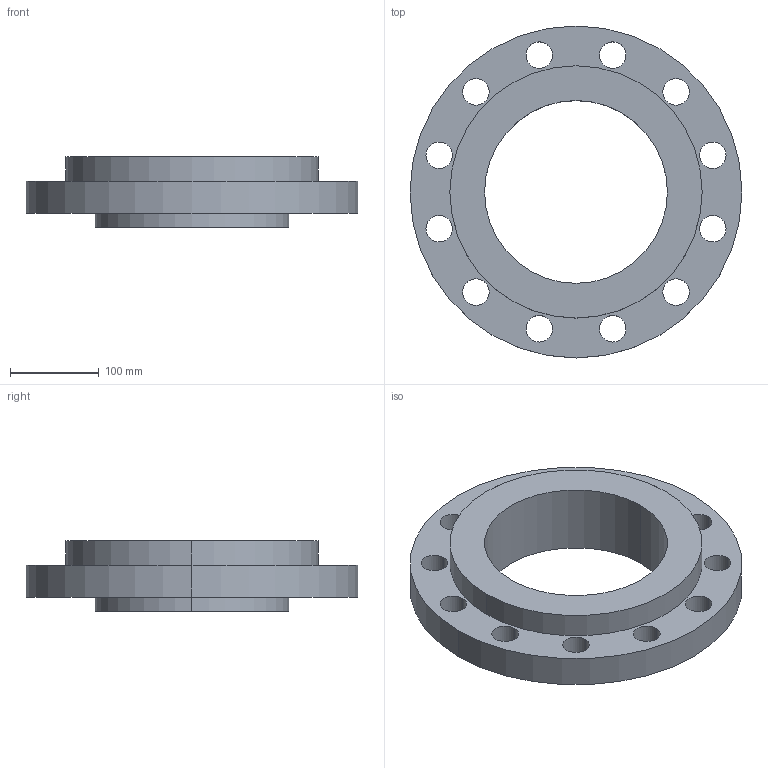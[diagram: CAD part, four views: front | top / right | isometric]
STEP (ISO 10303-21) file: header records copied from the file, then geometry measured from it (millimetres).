
FILE_DESCRIPTION (( 'STEP AP214' ), '1' );
FILE_NAME ('PN40 DN200 Type 04 in 34 - (Type A Face).STEP', '2019-01-05T02:26:27', ( '' ), ( '' ), 'SwSTEP 2.0', 'SolidWorks 2019', '' );
FILE_SCHEMA (( 'AUTOMOTIVE_DESIGN' ));
Length unit declared in the file: millimetre
Products named in the file (1): PN40 DN200 Type 04 in 34 - (Type A Face)
Bounding box: 375 x 375 x 80 mm (x, y, z)
Volume: 3024624.5 mm3; surface area: 382360.1 mm2
Topology: 2 solids, 2 shells, 45 faces, 114 edges, 74 vertices
Faces by surface type: cylinder 34, cone 6, plane 5
Entity records: 1493 total; most frequent: DIRECTION 280, CARTESIAN_POINT 234, ORIENTED_EDGE 228, AXIS2_PLACEMENT_3D 120, EDGE_CURVE 114, EDGE_LOOP 74, VERTEX_POINT 74, CIRCLE 74
